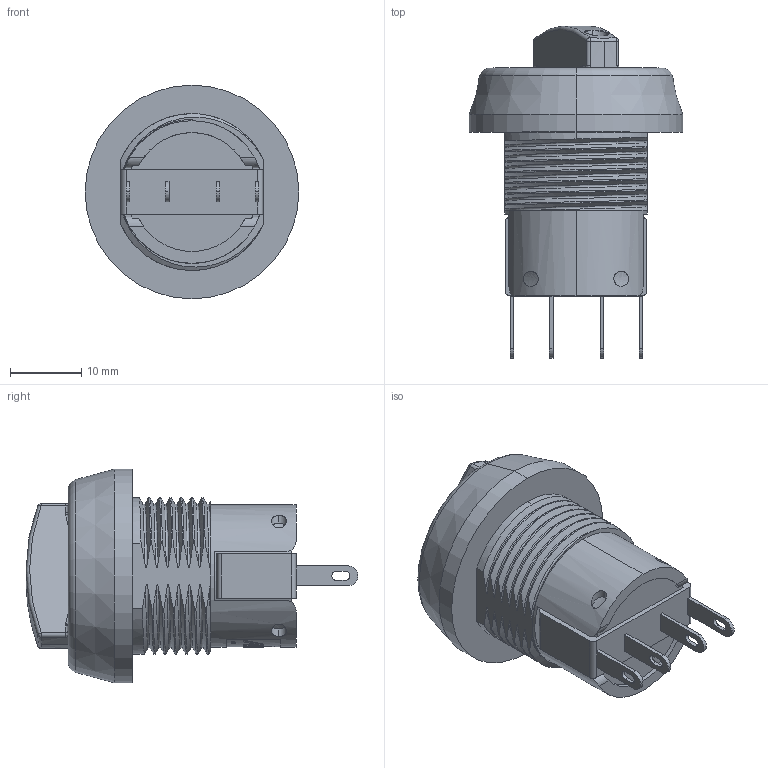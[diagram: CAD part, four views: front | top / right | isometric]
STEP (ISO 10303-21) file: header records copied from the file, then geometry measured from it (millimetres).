
FILE_DESCRIPTION (( 'STEP AP214' ), '1' );
FILE_NAME ('76-949034.STEP', '2015-06-01T09:04:40', ( 'Admin' ), ( 'Microsoft' ), 'SwSTEP 2.0', 'SolidWorks 2015', '' );
FILE_SCHEMA (( 'AUTOMOTIVE_DESIGN' ));
Length unit declared in the file: millimetre
Products named in the file (2): 76-949034
Bounding box: 30 x 46.6 x 30 mm (x, y, z)
Volume: 13662.1 mm3; surface area: 4847.2 mm2
Topology: 1 solids, 1 shells, 270 faces, 720 edges, 464 vertices
Faces by surface type: cylinder 94, plane 85, bspline 65, torus 14, cone 6, sphere 6
Entity records: 25825 total; most frequent: CARTESIAN_POINT 19771, ORIENTED_EDGE 1432, DIRECTION 1047, EDGE_CURVE 716, VERTEX_POINT 464, AXIS2_PLACEMENT_3D 391, EDGE_LOOP 294, ADVANCED_FACE 270
